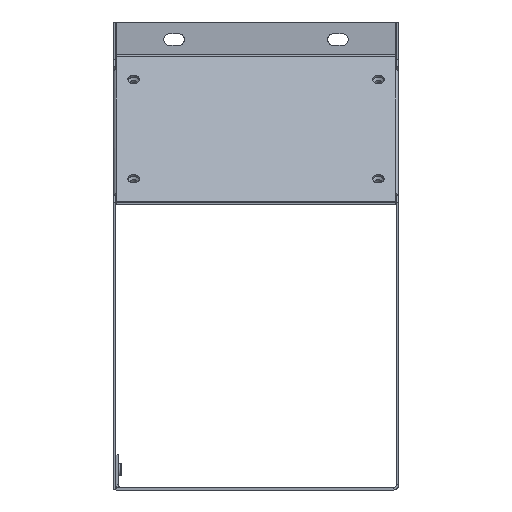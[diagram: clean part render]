
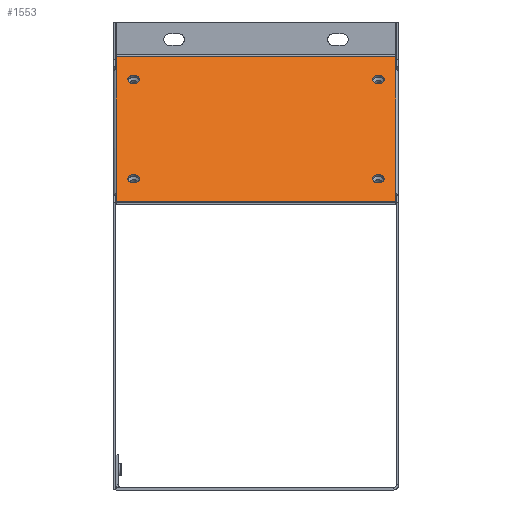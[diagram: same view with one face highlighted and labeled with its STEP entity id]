
A CAD part, left-side view. The second image highlights one B-rep face of the part: STEP entity #1553.
In plain terms, the highlighted free-form (B-spline) face has degree [1, 1] with [2, 2] control points.
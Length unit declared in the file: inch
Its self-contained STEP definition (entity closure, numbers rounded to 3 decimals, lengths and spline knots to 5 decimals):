
#656=CARTESIAN_POINT('V1',(2.76544,5.596,
   -3.43766));
#657=VERTEX_POINT('V1',#656);
#658=CARTESIAN_POINT('E1',(2.76544,5.596,
   -3.43766));
#659=CARTESIAN_POINT('E1',(2.76544,5.81251,
   -3.43766));
#660=CARTESIAN_POINT('E1',(2.63286,5.70425,
   -3.30508));
#661=CARTESIAN_POINT('E1',(2.50027,5.596,
   -3.17249));
#662=CARTESIAN_POINT('E1',(2.63286,5.48775,
   -3.30508));
#663=CARTESIAN_POINT('E1',(2.76544,5.37949,
   -3.43766));
#664=CARTESIAN_POINT('E1',(2.76544,5.596,
   -3.43766));
#672=(BOUNDED_CURVE()B_SPLINE_CURVE(2,(#658,#659,#660,#661,#662,
   #663,#664),.CIRCULAR_ARC.,.T.,.U.)B_SPLINE_CURVE_WITH_KNOTS((3,
   2,2,3),(0.0,0.33333,0.66667,1.0),
   .UNSPECIFIED.)CURVE()GEOMETRIC_REPRESENTATION_ITEM()
   RATIONAL_B_SPLINE_CURVE((1.0,0.5,1.0,
   0.5,1.0,0.5,1.0))REPRESENTATION_ITEM(
   'E1'));
#673=EDGE_CURVE('E1',#657,#657,#672,.T.);
#725=CARTESIAN_POINT('V2',(2.76544,0.367,
   -3.43766));
#726=VERTEX_POINT('V2',#725);
#727=CARTESIAN_POINT('E2',(2.76544,0.367,
   -3.43766));
#728=CARTESIAN_POINT('E2',(2.76544,0.58351,
   -3.43766));
#729=CARTESIAN_POINT('E2',(2.63286,0.47525,
   -3.30508));
#730=CARTESIAN_POINT('E2',(2.50027,0.367,
   -3.17249));
#731=CARTESIAN_POINT('E2',(2.63286,0.25875,
   -3.30508));
#732=CARTESIAN_POINT('E2',(2.76544,0.15049,
   -3.43766));
#733=CARTESIAN_POINT('E2',(2.76544,0.367,
   -3.43766));
#741=(BOUNDED_CURVE()B_SPLINE_CURVE(2,(#727,#728,#729,#730,#731,
   #732,#733),.CIRCULAR_ARC.,.T.,.U.)B_SPLINE_CURVE_WITH_KNOTS((3,
   2,2,3),(0.0,0.33333,0.66667,1.0),
   .UNSPECIFIED.)CURVE()GEOMETRIC_REPRESENTATION_ITEM()
   RATIONAL_B_SPLINE_CURVE((1.0,0.5,1.0,
   0.5,1.0,0.5,1.0))REPRESENTATION_ITEM(
   'E2'));
#742=EDGE_CURVE('E2',#726,#726,#741,.T.);
#794=CARTESIAN_POINT('V3',(0.64412,0.367,
   -1.31634));
#795=VERTEX_POINT('V3',#794);
#796=CARTESIAN_POINT('E3',(0.64412,0.367,
   -1.31634));
#797=CARTESIAN_POINT('E3',(0.64412,0.58351,
   -1.31634));
#798=CARTESIAN_POINT('E3',(0.51154,0.47525,
   -1.18375));
#799=CARTESIAN_POINT('E3',(0.37895,0.367,
   -1.05117));
#800=CARTESIAN_POINT('E3',(0.51154,0.25875,
   -1.18375));
#801=CARTESIAN_POINT('E3',(0.64412,0.15049,
   -1.31634));
#802=CARTESIAN_POINT('E3',(0.64412,0.367,
   -1.31634));
#810=(BOUNDED_CURVE()B_SPLINE_CURVE(2,(#796,#797,#798,#799,#800,
   #801,#802),.CIRCULAR_ARC.,.T.,.U.)B_SPLINE_CURVE_WITH_KNOTS((3,
   2,2,3),(0.0,0.33333,0.66667,1.0),
   .UNSPECIFIED.)CURVE()GEOMETRIC_REPRESENTATION_ITEM()
   RATIONAL_B_SPLINE_CURVE((1.0,0.5,1.0,
   0.5,1.0,0.5,1.0))REPRESENTATION_ITEM(
   'E3'));
#811=EDGE_CURVE('E3',#795,#795,#810,.T.);
#863=CARTESIAN_POINT('V4',(0.64412,5.596,
   -1.31634));
#864=VERTEX_POINT('V4',#863);
#865=CARTESIAN_POINT('E4',(0.64412,5.596,
   -1.31634));
#866=CARTESIAN_POINT('E4',(0.64412,5.81251,
   -1.31634));
#867=CARTESIAN_POINT('E4',(0.51154,5.70425,
   -1.18375));
#868=CARTESIAN_POINT('E4',(0.37895,5.596,
   -1.05117));
#869=CARTESIAN_POINT('E4',(0.51154,5.48775,
   -1.18375));
#870=CARTESIAN_POINT('E4',(0.64412,5.37949,
   -1.31634));
#871=CARTESIAN_POINT('E4',(0.64412,5.596,
   -1.31634));
#879=(BOUNDED_CURVE()B_SPLINE_CURVE(2,(#865,#866,#867,#868,#869,
   #870,#871),.CIRCULAR_ARC.,.T.,.U.)B_SPLINE_CURVE_WITH_KNOTS((3,
   2,2,3),(0.0,0.33333,0.66667,1.0),
   .UNSPECIFIED.)CURVE()GEOMETRIC_REPRESENTATION_ITEM()
   RATIONAL_B_SPLINE_CURVE((1.0,0.5,1.0,
   0.5,1.0,0.5,1.0))REPRESENTATION_ITEM(
   'E4'));
#880=EDGE_CURVE('E4',#864,#864,#879,.T.);
#1419=CARTESIAN_POINT('V8',(0.07257,5.963,
   -0.74479));
#1420=VERTEX_POINT('V8',#1419);
#1463=CARTESIAN_POINT('V7',(3.16021,5.963,
   -3.83243));
#1464=VERTEX_POINT('V7',#1463);
#1465=CARTESIAN_POINT('E7',(0.07257,5.963,
   -0.74479));
#1466=CARTESIAN_POINT('E7',(3.16021,5.963,
   -3.83243));
#1467=QUASI_UNIFORM_CURVE('E7',1,(#1465,#1466),.POLYLINE_FORM.,.F.,
   .U.);
#1468=EDGE_CURVE('E7',#1420,#1464,#1467,.T.);
#1491=CARTESIAN_POINT('V6',(3.16021,0.0,-3.83243)
   );
#1492=VERTEX_POINT('V6',#1491);
#1493=CARTESIAN_POINT('V5',(0.07257,0.0,-0.74479)
   );
#1494=VERTEX_POINT('V5',#1493);
#1495=CARTESIAN_POINT('E5',(3.16021,0.0,-3.83243)
   );
#1496=CARTESIAN_POINT('E5',(0.07257,0.0,-0.74479)
   );
#1497=QUASI_UNIFORM_CURVE('E5',1,(#1495,#1496),.POLYLINE_FORM.,.F.,
   .U.);
#1498=EDGE_CURVE('E5',#1492,#1494,#1497,.T.);
#1522=CARTESIAN_POINT('F2',(0.07174,5.96418,
   -0.74396));
#1523=CARTESIAN_POINT('F2',(3.16104,5.96418,
   -3.83326));
#1524=CARTESIAN_POINT('F2',(0.07174,-0.00118,
   -0.74396));
#1525=CARTESIAN_POINT('F2',(3.16104,-0.00118,
   -3.83326));
#1526=B_SPLINE_SURFACE_WITH_KNOTS('F2',1,1,((#1522,#1524),(#1523,
   #1525)),.PLANE_SURF.,.F.,.F.,.U.,(2,2),(2,2),(0.0,1.0),(0.0,
   1.3654),.UNSPECIFIED.);
#1527=ORIENTED_EDGE('E5',*,*,#1498,.T.);
#1528=CARTESIAN_POINT('E8',(0.07257,0.0,-0.74479)
   );
#1529=CARTESIAN_POINT('E8',(0.07257,5.963,
   -0.74479));
#1530=QUASI_UNIFORM_CURVE('E8',1,(#1528,#1529),.POLYLINE_FORM.,.F.,
   .U.);
#1531=EDGE_CURVE('E8',#1494,#1420,#1530,.T.);
#1532=ORIENTED_EDGE('E8',*,*,#1531,.T.);
#1533=ORIENTED_EDGE('E7',*,*,#1468,.T.);
#1534=CARTESIAN_POINT('E6',(3.16021,5.963,
   -3.83243));
#1535=CARTESIAN_POINT('E6',(3.16021,0.0,-3.83243)
   );
#1536=QUASI_UNIFORM_CURVE('E6',1,(#1534,#1535),.POLYLINE_FORM.,.F.,
   .U.);
#1537=EDGE_CURVE('E6',#1464,#1492,#1536,.T.);
#1538=ORIENTED_EDGE('E6',*,*,#1537,.T.);
#1539=EDGE_LOOP('F2',(#1527,#1532,#1533,#1538));
#1540=FACE_OUTER_BOUND('F2',#1539,.F.);
#1541=ORIENTED_EDGE('E4',*,*,#880,.T.);
#1542=EDGE_LOOP('F2',(#1541));
#1543=FACE_BOUND('F2',#1542,.F.);
#1544=ORIENTED_EDGE('E3',*,*,#811,.T.);
#1545=EDGE_LOOP('F2',(#1544));
#1546=FACE_BOUND('F2',#1545,.F.);
#1547=ORIENTED_EDGE('E2',*,*,#742,.T.);
#1548=EDGE_LOOP('F2',(#1547));
#1549=FACE_BOUND('F2',#1548,.F.);
#1550=ORIENTED_EDGE('E1',*,*,#673,.T.);
#1551=EDGE_LOOP('F2',(#1550));
#1552=FACE_BOUND('F2',#1551,.F.);
#1553=ADVANCED_FACE('F2',(#1540,#1543,#1546,#1549,#1552),#1526,.F.
   );
